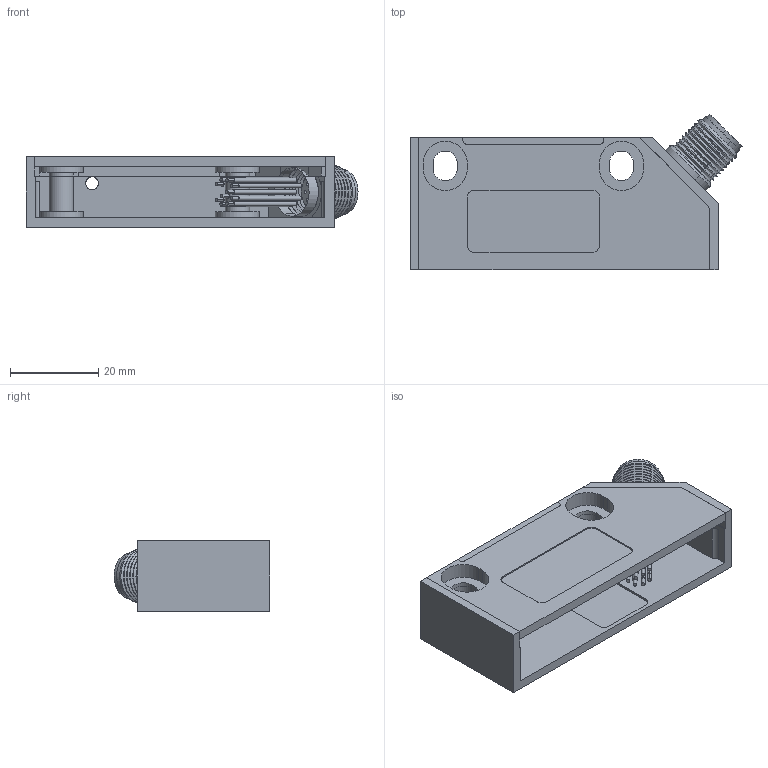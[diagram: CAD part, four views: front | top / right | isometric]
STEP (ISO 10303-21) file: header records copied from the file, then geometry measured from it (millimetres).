
FILE_DESCRIPTION (( 'STEP AP214' ), '1' );
FILE_NAME ('8.LA10.12X2.STEP', '2014-07-01T08:09:29', ( 'HeirlerN' ), ( 'Microsoft' ), 'SwSTEP 2.0', 'SolidWorks 2013', '' );
FILE_SCHEMA (( 'AUTOMOTIVE_DESIGN' ));
Length unit declared in the file: millimetre
Products named in the file (1): 8.LA10.12X2
Bounding box: 75.36 x 35.37 x 16 mm (x, y, z)
Surface area: 12755.6 mm2 (no closed solid volume)
Topology: 0 solids, 15 shells, 259 faces, 734 edges, 488 vertices
Faces by surface type: cylinder 118, plane 91, cone 38, bspline 12
Entity records: 11273 total; most frequent: CARTESIAN_POINT 1638, DIRECTION 1517, ORIENTED_EDGE 1256, EDGE_CURVE 710, AXIS2_PLACEMENT_3D 559, VERTEX_POINT 488, VECTOR 399, LINE 399
